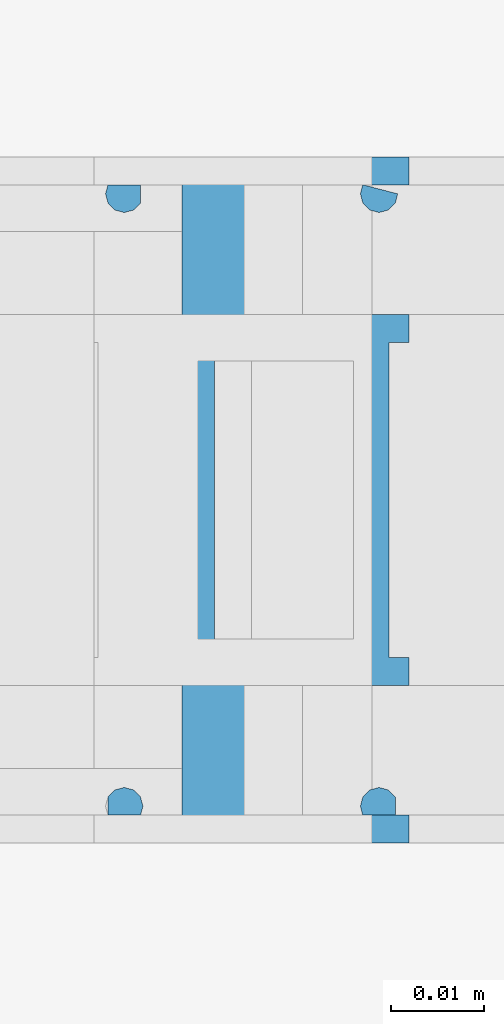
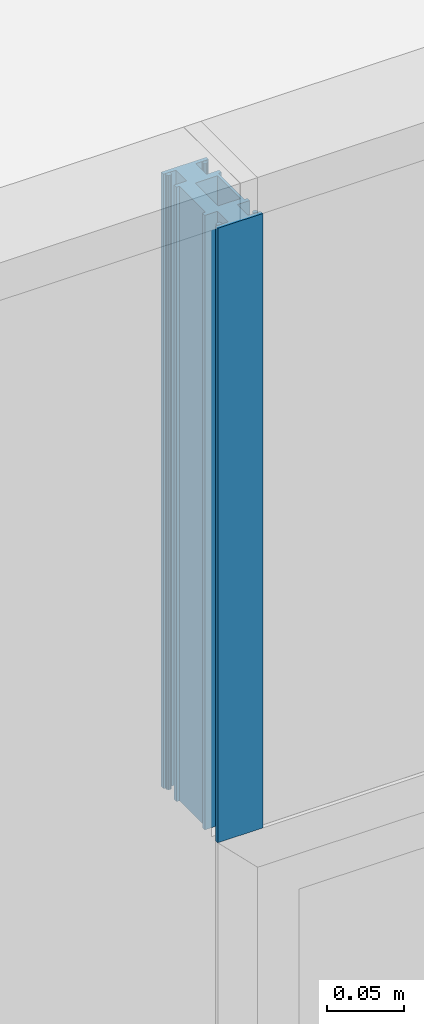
# One storey, part 51 of 62: 2 building element parts, 2 elements without a shape of their own.
"""IFC2X3 building model written with IfcOpenShell, lengths in millimetres."""

from ifc_helpers import new_model, entity, si_unit, converted_unit, derived_unit, money_unit, direction, frame, origin_with_axes, place, context, subcontext, project, spatial, faceted_brep, material, type_object, element, aggregate, save


model = new_model("IFC2X3")

# Units and contexts
model_context = context("Model", 3, precision=0.01, world=origin_with_axes(), true_north=direction((0.0, 1.0)))
body_context = subcontext(model_context, "Body", "Model", "MODEL_VIEW")
ifc_project = project(units=[si_unit("LENGTHUNIT", "METRE", prefix="MILLI"), si_unit("AREAUNIT", "SQUARE_METRE"), si_unit("VOLUMEUNIT", "CUBIC_METRE"), converted_unit("PLANEANGLEUNIT", "DEGREE", entity("IfcPlaneAngleMeasure", 0.0174532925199), si_unit("PLANEANGLEUNIT", "RADIAN"), dimensions=[0, 0, 0, 0, 0, 0, 0]), si_unit("SOLIDANGLEUNIT", "STERADIAN"), money_unit("EUR"), converted_unit("TIMEUNIT", "Year", entity("IfcTimeMeasure", 31556926.0), si_unit("TIMEUNIT", "SECOND"), dimensions=[0, 0, 1, 0, 0, 0, 0]), si_unit("MASSUNIT", "GRAM", prefix="KILO"), si_unit("THERMODYNAMICTEMPERATUREUNIT", "DEGREE_CELSIUS"), si_unit("LUMINOUSINTENSITYUNIT", "LUMEN"), si_unit("ENERGYUNIT", "JOULE", prefix="MEGA"), derived_unit("THERMALCONDUCTANCEUNIT", [(si_unit("POWERUNIT", "WATT"), 1), (si_unit("LENGTHUNIT", "METRE"), -1), (si_unit("THERMODYNAMICTEMPERATUREUNIT", "KELVIN"), -1)]), derived_unit("SPECIFICHEATCAPACITYUNIT", [(si_unit("ENERGYUNIT", "JOULE"), 1), (si_unit("MASSUNIT", "GRAM", prefix="KILO"), -1), (si_unit("THERMODYNAMICTEMPERATUREUNIT", "KELVIN"), -1)]), derived_unit("MASSDENSITYUNIT", [(si_unit("MASSUNIT", "GRAM", prefix="KILO"), 1), (si_unit("VOLUMEUNIT", "CUBIC_METRE"), -1)])], contexts=[model_context])

# Site, building, storey
site_placement = place(None, origin_with_axes())
site = spatial("IfcSite", under=ifc_project, at=site_placement, Name="Puškini 31, Narva", CompositionType="ELEMENT")
building_placement = place(site_placement, origin_with_axes())
building = spatial("IfcBuilding", under=site, at=building_placement, Name="Narva Riigigümnaasium", CompositionType="ELEMENT")
storey_placement = place(building_placement, frame((0.0, 0.0, 660.0), z_axis=(0.0, 0.0, 1.0), x_axis=(1.0, 0.0, 0.0)))
storey = spatial("IfcBuildingStorey", under=building, at=storey_placement, Name="2.korrus +0.66", CompositionType="ELEMENT", Elevation=660.0)

# Curtain wall, member, building element parts
curtain_wall_type = type_object("IfcCurtainWallType", Name="Curtain Wall Type", PredefinedType="NOTDEFINED")
curtain_wall_placement = place(storey_placement, frame((41241.6, 223837.000007, -1.99739158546e-06), z_axis=(0.0, 0.0, 1.0), x_axis=(1.0, 0.0, 0.0)))
curtain_wall = element("IfcCurtainWall", 1, at=curtain_wall_placement, inside=storey, type_object=curtain_wall_type, Name="G-SKLF-53")
member_type = type_object("IfcMemberType", Name="34 x -27", PredefinedType="MULLION")
member_placement = place(curtain_wall_placement, frame((-923.400005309, 0.0, 2429.99999198), z_axis=(0.0, 0.0, 1.0), x_axis=(-1.0, 0.0, 0.0)))
member = element("IfcMember", 2, at=member_placement, type_object=member_type, Name="G-SKLF-53-raam", ObjectType="MULLION")
aggregate(curtain_wall, [member])
ifc_material_1 = material(Name="Klaasvill")
building_element_part_1_placement = place(member_placement, origin_with_axes())
building_element_part_1 = element("IfcBuildingElementPart", 3, at=building_element_part_1_placement, material=ifc_material_1, Name="Klaasvill", context=body_context, shape_type="Brep", body=[
    faceted_brep([(11.987414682, -34.0161444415, 0.0), (11.987414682, -34.0161444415, 489.99998317), (12.004489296, -32.0307503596, 489.99998317), (12.004489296, -32.0307503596, 0.0), (15.5126239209, -34.0161444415, 0.0), (15.5126239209, -34.0161444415, 489.99998317), (15.7655837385, -33.0385325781, 489.99998317), (15.4955493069, -32.0307503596, 489.99998317), (14.75780152, -31.2930025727, 489.99998317), (13.7500193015, -31.0229681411, 489.99998317), (12.742237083, -31.2930025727, 489.99998317), (12.742237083, -31.2930025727, 0.0), (13.7500193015, -31.0229681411, 0.0), (14.75780152, -31.2930025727, 0.0), (15.4955493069, -32.0307503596, 0.0), (15.7655837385, -33.0385325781, 0.0)], [[[0, 1, 2, 3]], [[4, 5, 1, 0]], [[1, 5, 6, 7, 8, 9, 10, 2]], [[3, 2, 10, 11]], [[0, 3, 11, 12, 13, 14, 15, 4]], [[15, 6, 5, 4]], [[14, 7, 6, 15]], [[13, 8, 7, 14]], [[12, 9, 8, 13]], [[11, 10, 9, 12]]]),
    faceted_brep([(15.5126239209, 34.0161444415, 0.0), (15.5126239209, 34.0161444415, 489.99998317), (15.4955493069, 32.0307503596, 489.99998317), (15.4955493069, 32.0307503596, 0.0), (11.987414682, 34.0161444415, 0.0), (11.987414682, 34.0161444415, 489.99998317), (11.7344548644, 33.0385325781, 489.99998317), (12.004489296, 32.0307503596, 489.99998317), (12.742237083, 31.2930025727, 489.99998317), (13.7500193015, 31.0229681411, 489.99998317), (14.75780152, 31.2930025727, 489.99998317), (14.75780152, 31.2930025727, 0.0), (13.7500193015, 31.0229681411, 0.0), (12.742237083, 31.2930025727, 0.0), (12.004489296, 32.0307503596, 0.0), (11.7344548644, 33.0385325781, 0.0)], [[[0, 1, 2, 3]], [[4, 5, 1, 0]], [[1, 5, 6, 7, 8, 9, 10, 2]], [[3, 2, 10, 11]], [[0, 3, 11, 12, 13, 14, 15, 4]], [[15, 6, 5, 4]], [[14, 7, 6, 15]], [[13, 8, 7, 14]], [[12, 9, 8, 13]], [[11, 10, 9, 12]]]),
    faceted_brep([(-11.987414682, -34.0161444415, 0.0), (-11.987414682, -34.0161444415, 489.99998317), (-15.7655837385, -33.0385325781, 489.99998317), (-15.7655837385, -33.0385325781, 0.0), (-11.7344548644, -33.0385325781, 0.0), (-11.7344548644, -33.0385325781, 489.99998317), (-12.004489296, -32.0307503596, 489.99998317), (-12.742237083, -31.2930025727, 489.99998317), (-13.7500193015, -31.0229681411, 489.99998317), (-14.75780152, -31.2930025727, 489.99998317), (-15.4955493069, -32.0307503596, 489.99998317), (-15.4955493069, -32.0307503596, 0.0), (-14.75780152, -31.2930025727, 0.0), (-13.7500193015, -31.0229681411, 0.0), (-12.742237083, -31.2930025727, 0.0), (-12.004489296, -32.0307503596, 0.0)], [[[0, 1, 2, 3]], [[4, 5, 1, 0]], [[1, 5, 6, 7, 8, 9, 10, 2]], [[3, 2, 10, 11]], [[0, 3, 11, 12, 13, 14, 15, 4]], [[15, 6, 5, 4]], [[14, 7, 6, 15]], [[13, 8, 7, 14]], [[12, 9, 8, 13]], [[11, 10, 9, 12]]]),
    faceted_brep([(-15.4955493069, 32.0307503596, 0.0), (-15.4955493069, 32.0307503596, 489.99998317), (-15.5126239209, 34.0161444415, 489.99998317), (-15.5126239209, 34.0161444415, 0.0), (-14.75780152, 31.2930025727, 0.0), (-14.75780152, 31.2930025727, 489.99998317), (-13.7500193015, 31.0229681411, 489.99998317), (-12.742237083, 31.2930025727, 489.99998317), (-12.004489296, 32.0307503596, 489.99998317), (-11.7344548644, 33.0385325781, 489.99998317), (-11.987414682, 34.0161444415, 489.99998317), (-11.987414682, 34.0161444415, 0.0), (-11.7344548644, 33.0385325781, 0.0), (-12.004489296, 32.0307503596, 0.0), (-12.742237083, 31.2930025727, 0.0), (-13.7500193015, 31.0229681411, 0.0)], [[[0, 1, 2, 3]], [[4, 5, 1, 0]], [[1, 5, 6, 7, 8, 9, 10, 2]], [[3, 2, 10, 11]], [[0, 3, 11, 12, 13, 14, 15, 4]], [[15, 6, 5, 4]], [[14, 7, 6, 15]], [[13, 8, 7, 14]], [[12, 9, 8, 13]], [[11, 10, 9, 12]]]),
])
ifc_material_2 = material(Name="Teras RAL7012")
building_element_part_2_placement = place(member_placement, origin_with_axes())
building_element_part_2 = element("IfcBuildingElementPart", 4, at=building_element_part_2_placement, material=ifc_material_2, Name="Teras RAL7012", context=body_context, shape_type="Brep", body=[
    faceted_brep([(-14.8000001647, 17.0000000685, 0.0), (-14.8000001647, 17.0000000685, 489.99998317), (-3.08908454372e-07, 17.0000000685, 489.99998317), (-3.08908454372e-07, 17.0000000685, 0.0), (-14.8000001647, -17.0000001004, 0.0), (-14.8000001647, -17.0000001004, 489.99998317), (-3.08908454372e-07, -17.0000001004, 489.99998317), (14.8000003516, -17.0000001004, 489.99998317), (14.8000003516, 17.0000000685, 489.99998317), (-12.8000002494, -15.0000001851, 489.99998317), (-12.8000002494, 15.0000001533, 489.99998317), (4.0000003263, 15.0000001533, 489.99998317), (4.0000003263, -15.0000001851, 489.99998317), (14.8000003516, 17.0000000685, 0.0), (14.8000003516, -17.0000001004, 0.0), (-3.08908454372e-07, -17.0000001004, 0.0), (-12.8000002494, -15.0000001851, 0.0), (4.0000003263, -15.0000001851, 0.0), (4.0000003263, 15.0000001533, 0.0), (-12.8000002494, 15.0000001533, 0.0)], [[[0, 1, 2, 3]], [[4, 5, 1, 0]], [[1, 5, 6, 7, 8, 2], [9, 10, 11, 12]], [[3, 2, 8, 13]], [[0, 3, 13, 14, 15, 4], [16, 17, 18, 19]], [[15, 6, 5, 4]], [[14, 7, 6, 15]], [[13, 8, 7, 14]], [[19, 10, 9, 16]], [[18, 11, 10, 19]], [[17, 12, 11, 18]], [[16, 9, 12, 17]]]),
    faceted_brep([(0.0, -37.0000000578, 0.0), (0.0, -37.0000000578, 489.99998317), (0.0, -17.0, 489.99998317), (0.0, -17.0, 0.0), (17.0000193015, -37.0000000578, 0.0), (17.0000193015, -37.0000000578, 489.99998317), (17.0000193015, -34.0161446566, 489.99998317), (15.5126239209, -34.0161444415, 489.99998317), (11.987414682, -34.0161444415, 489.99998317), (7.50000002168, -34.0161446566, 489.99998317), (7.50000002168, -20.0000000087, 489.99998317), (17.0000193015, -20.0000000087, 489.99998317), (17.0000193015, -17.0, 489.99998317), (14.8000003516, -17.0000001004, 489.99998317), (14.8000003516, -17.0000001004, 0.0), (17.0000193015, -17.0, 0.0), (17.0000193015, -20.0000000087, 0.0), (7.50000002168, -20.0000000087, 0.0), (7.50000002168, -34.0161446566, 0.0), (11.987414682, -34.0161444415, 0.0), (15.5126239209, -34.0161444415, 0.0), (17.0000193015, -34.0161446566, 0.0)], [[[0, 1, 2, 3]], [[4, 5, 1, 0]], [[1, 5, 6, 7, 8, 9, 10, 11, 12, 13, 2]], [[3, 2, 13, 14]], [[0, 3, 14, 15, 16, 17, 18, 19, 20, 21, 4]], [[21, 6, 5, 4]], [[20, 7, 6, 21]], [[19, 8, 7, 20]], [[18, 9, 8, 19]], [[17, 10, 9, 18]], [[16, 11, 10, 17]], [[15, 12, 11, 16]], [[14, 13, 12, 15]]]),
    faceted_brep([(0.0, 16.9999999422, 0.0), (0.0, 16.9999999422, 489.99998317), (0.0, 37.0, 489.99998317), (0.0, 37.0, 0.0), (14.8000003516, 17.0000000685, 0.0), (14.8000003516, 17.0000000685, 489.99998317), (17.0000193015, 16.9999999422, 489.99998317), (17.0000193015, 19.9999999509, 489.99998317), (7.50000002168, 19.9999999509, 489.99998317), (7.50000002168, 34.0161445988, 489.99998317), (11.987414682, 34.0161444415, 489.99998317), (15.5126239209, 34.0161444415, 489.99998317), (17.0000193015, 34.0161445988, 489.99998317), (17.0000193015, 37.0, 489.99998317), (17.0000193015, 37.0, 0.0), (17.0000193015, 34.0161445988, 0.0), (15.5126239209, 34.0161444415, 0.0), (11.987414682, 34.0161444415, 0.0), (7.50000002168, 34.0161445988, 0.0), (7.50000002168, 19.9999999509, 0.0), (17.0000193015, 19.9999999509, 0.0), (17.0000193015, 16.9999999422, 0.0)], [[[0, 1, 2, 3]], [[4, 5, 1, 0]], [[1, 5, 6, 7, 8, 9, 10, 11, 12, 13, 2]], [[3, 2, 13, 14]], [[0, 3, 14, 15, 16, 17, 18, 19, 20, 21, 4]], [[21, 6, 5, 4]], [[20, 7, 6, 21]], [[19, 8, 7, 20]], [[18, 9, 8, 19]], [[17, 10, 9, 18]], [[16, 11, 10, 17]], [[15, 12, 11, 16]], [[14, 13, 12, 15]]]),
    faceted_brep([(0.0, -17.0, 0.0), (0.0, -17.0, 489.99998317), (0.0, -37.0, 489.99998317), (0.0, -37.0, 0.0), (-14.8000001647, -17.0000001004, 0.0), (-14.8000001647, -17.0000001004, 489.99998317), (-17.0000193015, -17.0, 489.99998317), (-17.0000193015, -20.0, 489.99998317), (-7.49999999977, -20.0, 489.99998317), (-7.49999999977, -34.0161444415, 489.99998317), (-11.987414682, -34.0161444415, 489.99998317), (-15.5126239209, -34.0161444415, 489.99998317), (-17.0000193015, -34.0161444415, 489.99998317), (-17.0000193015, -37.0, 489.99998317), (-17.0000193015, -37.0, 0.0), (-17.0000193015, -34.0161444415, 0.0), (-15.5126239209, -34.0161444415, 0.0), (-11.987414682, -34.0161444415, 0.0), (-7.49999999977, -34.0161444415, 0.0), (-7.49999999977, -20.0, 0.0), (-17.0000193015, -20.0, 0.0), (-17.0000193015, -17.0, 0.0)], [[[0, 1, 2, 3]], [[4, 5, 1, 0]], [[1, 5, 6, 7, 8, 9, 10, 11, 12, 13, 2]], [[3, 2, 13, 14]], [[0, 3, 14, 15, 16, 17, 18, 19, 20, 21, 4]], [[21, 6, 5, 4]], [[20, 7, 6, 21]], [[19, 8, 7, 20]], [[18, 9, 8, 19]], [[17, 10, 9, 18]], [[16, 11, 10, 17]], [[15, 12, 11, 16]], [[14, 13, 12, 15]]]),
    faceted_brep([(0.0, 17.0, 0.0), (0.0, 17.0, 489.99998317), (-14.8000001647, 17.0000000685, 489.99998317), (-14.8000001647, 17.0000000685, 0.0), (0.0, 37.0, 0.0), (0.0, 37.0, 489.99998317), (-17.0000193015, 37.0, 489.99998317), (-17.0000193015, 34.0161444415, 489.99998317), (-15.5126239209, 34.0161444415, 489.99998317), (-11.987414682, 34.0161444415, 489.99998317), (-7.49999999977, 34.0161444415, 489.99998317), (-7.49999999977, 20.0, 489.99998317), (-17.0000193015, 20.0, 489.99998317), (-17.0000193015, 17.0, 489.99998317), (-17.0000193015, 17.0, 0.0), (-17.0000193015, 20.0, 0.0), (-7.49999999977, 20.0, 0.0), (-7.49999999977, 34.0161444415, 0.0), (-11.987414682, 34.0161444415, 0.0), (-15.5126239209, 34.0161444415, 0.0), (-17.0000193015, 34.0161444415, 0.0), (-17.0000193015, 37.0, 0.0)], [[[0, 1, 2, 3]], [[4, 5, 1, 0]], [[1, 5, 6, 7, 8, 9, 10, 11, 12, 13, 2]], [[3, 2, 13, 14]], [[0, 3, 14, 15, 16, 17, 18, 19, 20, 21, 4]], [[21, 6, 5, 4]], [[20, 7, 6, 21]], [[19, 8, 7, 20]], [[18, 9, 8, 19]], [[17, 10, 9, 18]], [[16, 11, 10, 17]], [[15, 12, 11, 16]], [[14, 13, 12, 15]]]),
])
aggregate(member, [building_element_part_1, building_element_part_2])

save(model, "model.ifc")
